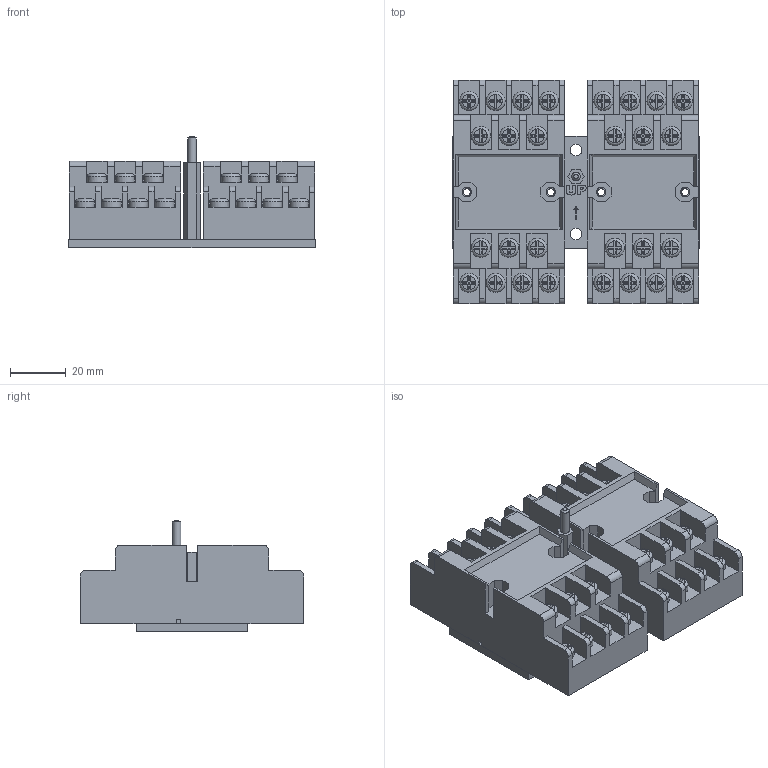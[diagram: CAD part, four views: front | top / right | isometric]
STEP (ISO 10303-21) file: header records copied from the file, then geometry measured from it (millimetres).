
FILE_DESCRIPTION((''),'2;1');
FILE_NAME('K:\TB\Bibliotheek\Inventor\Relais voeten\V92BR\V92BR.stp','2008-09-08T10:14:04',('Niriawan'),(''),'Autodesk Inventor 2009','Autodesk Inventor 2009','');
FILE_SCHEMA(('AUTOMOTIVE_DESIGN { 1 0 10303 214 1 1 1 1 }'));
Length unit declared in the file: millimetre
Products named in the file (1): V92BR
Bounding box: 88 x 80 x 40 mm (x, y, z)
Volume: 146714.7 mm3; surface area: 37080.8 mm2
Topology: 1 solids, 1 shells, 848 faces, 2392 edges, 1586 vertices
Faces by surface type: plane 728, cylinder 70, torus 28, bspline 21, cone 1
Full cylindrical faces by diameter (mm): 3 x2, 3.4 x4, 6.8 x28
Entity records: 28177 total; most frequent: CARTESIAN_POINT 5725, ORIENTED_EDGE 4566, DIRECTION 4290, EDGE_CURVE 2283, VECTOR 1652, LINE 1652, VERTEX_POINT 1547, AXIS2_PLACEMENT_3D 1319
